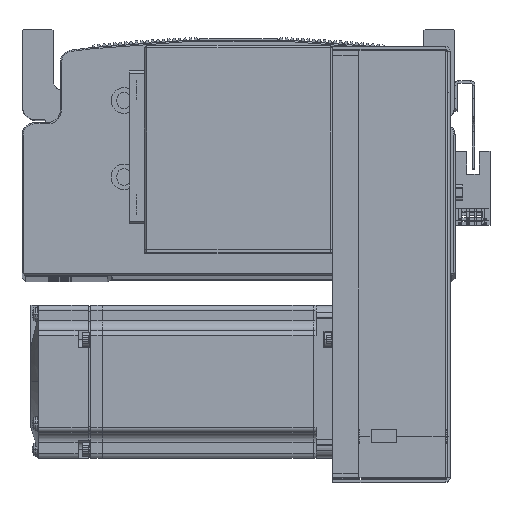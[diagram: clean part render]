
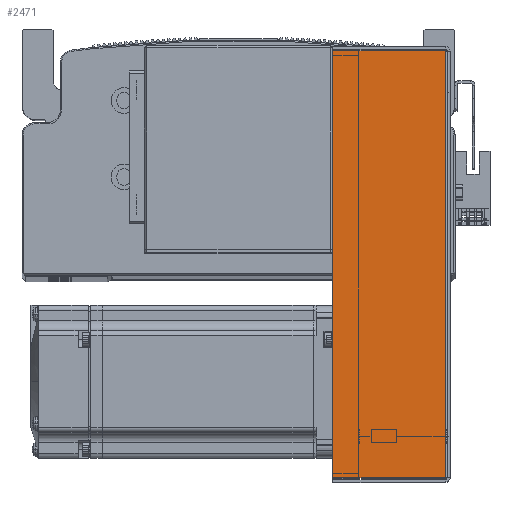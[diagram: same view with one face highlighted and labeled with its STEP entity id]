
A CAD part, top view. The second image highlights one B-rep face of the part: STEP entity #2471.
In plain terms, the highlighted planar face has unit normal (0, 0, 1) as drawn and (0, 0, -1) by its records, which use the part's own axes.
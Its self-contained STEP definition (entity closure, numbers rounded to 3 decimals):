
#2471 = ADVANCED_FACE ( 'NONE', ( #35300 ), #78527, .F. ) ;
#12735 = VECTOR ( 'NONE', #38821, 1000. ) ;
#12754 = VECTOR ( 'NONE', #38792, 1000. ) ;
#12784 = LINE ( 'NONE', #38817, #12735 ) ;
#12832 = LINE ( 'NONE', #38796, #12754 ) ;
#12845 = LINE ( 'NONE', #38962, #12880 ) ;
#12880 = VECTOR ( 'NONE', #38972, 1000. ) ;
#12902 = VECTOR ( 'NONE', #38980, 1000. ) ;
#12910 = LINE ( 'NONE', #38966, #12902 ) ;
#21697 = AXIS2_PLACEMENT_3D ( 'NONE', #78497, #78504, #78503 ) ;
#31266 = ORIENTED_EDGE ( 'NONE', *, *, #55781, .T. ) ;
#31287 = ORIENTED_EDGE ( 'NONE', *, *, #55671, .F. ) ;
#31300 = ORIENTED_EDGE ( 'NONE', *, *, #55682, .T. ) ;
#31314 = ORIENTED_EDGE ( 'NONE', *, *, #55769, .F. ) ;
#35300 = FACE_OUTER_BOUND ( 'NONE', #62942, .T. ) ;
#38792 = DIRECTION ( 'NONE',  ( 1., 0., 0. ) ) ;
#38796 = CARTESIAN_POINT ( 'NONE',  ( 84.5, 45., -40.5 ) ) ;
#38817 = CARTESIAN_POINT ( 'NONE',  ( 83.793, 0., -40.5 ) ) ;
#38821 = DIRECTION ( 'NONE',  ( 0., 1., 0. ) ) ;
#38962 = CARTESIAN_POINT ( 'NONE',  ( -83.793, 0., -40.5 ) ) ;
#38966 = CARTESIAN_POINT ( 'NONE',  ( 0., 0.737, -40.5 ) ) ;
#38972 = DIRECTION ( 'NONE',  ( 0., 1., 0. ) ) ;
#38980 = DIRECTION ( 'NONE',  ( 1., 0., 0. ) ) ;
#42099 = VERTEX_POINT ( 'NONE', #52670 ) ;
#42160 = VERTEX_POINT ( 'NONE', #52702 ) ;
#42212 = VERTEX_POINT ( 'NONE', #52838 ) ;
#42300 = VERTEX_POINT ( 'NONE', #52937 ) ;
#52670 = CARTESIAN_POINT ( 'NONE',  ( -83.793, 45., -40.5 ) ) ;
#52702 = CARTESIAN_POINT ( 'NONE',  ( 83.793, 0.737, -40.5 ) ) ;
#52838 = CARTESIAN_POINT ( 'NONE',  ( 83.793, 45., -40.5 ) ) ;
#52937 = CARTESIAN_POINT ( 'NONE',  ( -83.793, 0.737, -40.5 ) ) ;
#55671 = EDGE_CURVE ( 'NONE', #42160, #42212, #12784, .T. ) ;
#55682 = EDGE_CURVE ( 'NONE', #42099, #42212, #12832, .T. ) ;
#55769 = EDGE_CURVE ( 'NONE', #42300, #42160, #12910, .T. ) ;
#55781 = EDGE_CURVE ( 'NONE', #42300, #42099, #12845, .T. ) ;
#62942 = EDGE_LOOP ( 'NONE', ( #31314, #31266, #31300, #31287 ) ) ;
#78497 = CARTESIAN_POINT ( 'NONE',  ( 0., 0., -40.5 ) ) ;
#78503 = DIRECTION ( 'NONE',  ( 0., -1., 0. ) ) ;
#78504 = DIRECTION ( 'NONE',  ( 0., 0., 1. ) ) ;
#78527 = PLANE ( 'NONE',  #21697 ) ;
